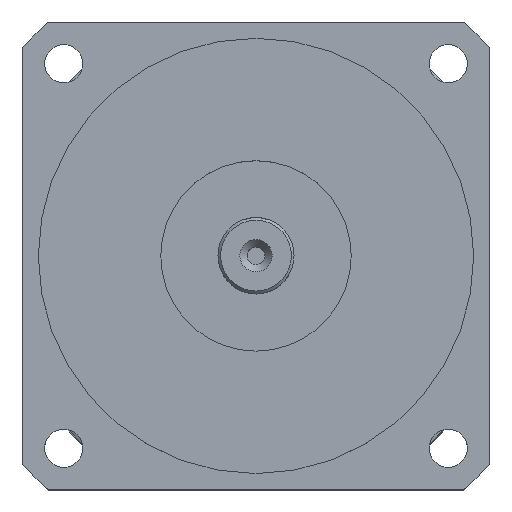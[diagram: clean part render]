
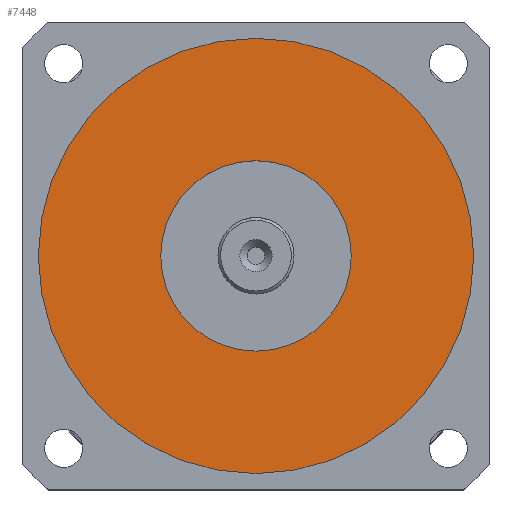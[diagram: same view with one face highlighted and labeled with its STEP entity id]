
A CAD part, top view. The second image highlights one B-rep face of the part: STEP entity #7448.
In plain terms, the highlighted planar face has unit normal (0, 0, 1).
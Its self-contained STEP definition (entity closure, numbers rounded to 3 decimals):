
#2970=VERTEX_POINT('',#11366);
#2971=VERTEX_POINT('',#11370);
#3456=CIRCLE('',#8067,17.5);
#3457=CIRCLE('',#8070,40.);
#4009=EDGE_CURVE('',#2970,#2970,#3456,.T.);
#4010=EDGE_CURVE('',#2971,#2971,#3457,.T.);
#5065=ORIENTED_EDGE('',*,*,#4010,.F.);
#5066=ORIENTED_EDGE('',*,*,#4009,.T.);
#6468=EDGE_LOOP('',(#5065));
#6469=EDGE_LOOP('',(#5066));
#6978=FACE_BOUND('',#6468,.T.);
#6979=FACE_BOUND('',#6469,.T.);
#7448=ADVANCED_FACE('',(#6978,#6979),#9216,.F.);
#8067=AXIS2_PLACEMENT_3D('',#11365,#13787,#13788);
#8070=AXIS2_PLACEMENT_3D('',#11369,#13792,#13793);
#8072=AXIS2_PLACEMENT_3D('',#11373,#13796,$);
#9216=PLANE('',#8072);
#11365=CARTESIAN_POINT('',(0.,0.,177.));
#11366=CARTESIAN_POINT('',(17.5,0.,177.));
#11369=CARTESIAN_POINT('',(0.,0.,177.));
#11370=CARTESIAN_POINT('',(40.,0.,177.));
#11373=CARTESIAN_POINT('',(0.,0.,177.));
#13787=DIRECTION('',(0.,0.,-1.));
#13788=DIRECTION('',(-17.5,0.,0.));
#13792=DIRECTION('',(0.,0.,-1.));
#13793=DIRECTION('',(-40.,0.,0.));
#13796=DIRECTION('',(0.,0.,-1.));
